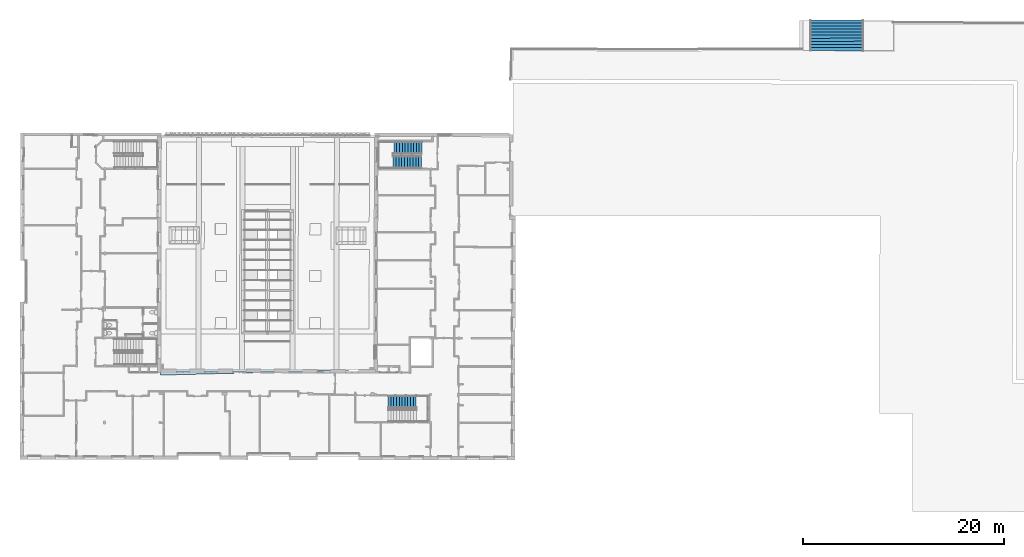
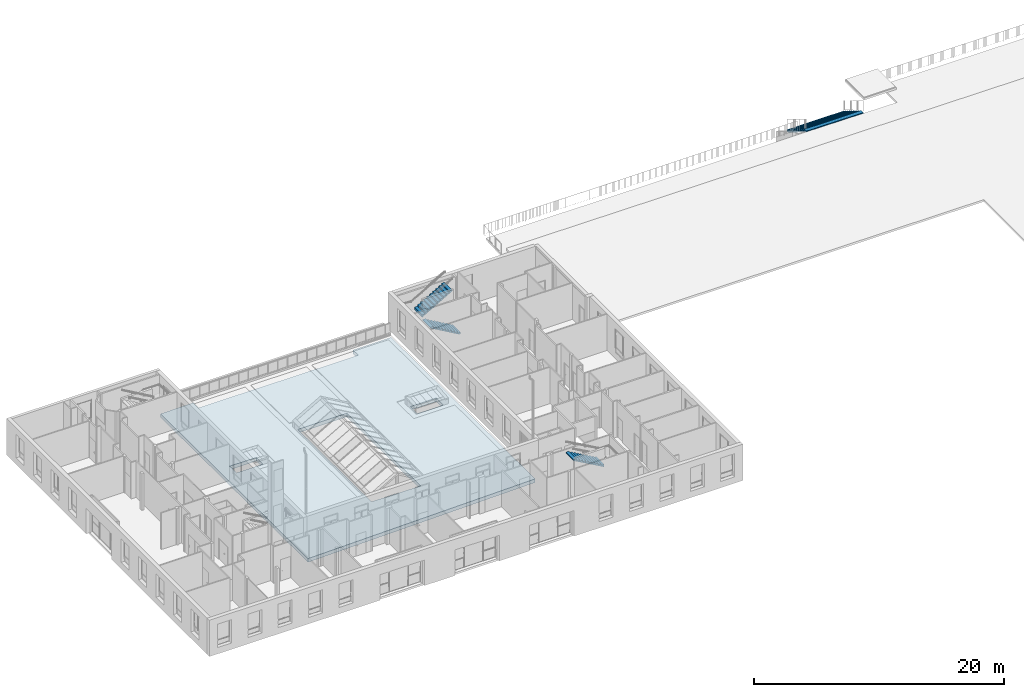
# One storey, part 97 of 101: 4 stair flights, 1 roof, 3 elements without a shape of their own.
"""IFC2X3 building model written with IfcOpenShell, lengths in metres."""

from ifc_helpers import new_model, entity, si_unit, converted_unit, derived_unit, direction, frame, origin, place, context, subcontext, project, spatial, faceted_brep, material, layer, layer_set, type_object, element, aggregate, save


model = new_model("IFC2X3")

# Units and contexts
model_context = context("Model", 3, precision=1e-05, world=origin(), true_north=direction((6.123233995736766e-17, 1.0)))
body_context = subcontext(model_context, "Body", "Model", "MODEL_VIEW")
ifc_project = project(units=[si_unit("LENGTHUNIT", "METRE"), si_unit("AREAUNIT", "SQUARE_METRE"), converted_unit("PLANEANGLEUNIT", "DEGREE", entity("IfcPlaneAngleMeasure", 0.017453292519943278), si_unit("PLANEANGLEUNIT", "RADIAN"), dimensions=[0, 0, 0, 0, 0, 0, 0]), derived_unit("THERMALTRANSMITTANCEUNIT", [(si_unit("MASSUNIT", "GRAM", prefix="KILO"), 1), (si_unit("THERMODYNAMICTEMPERATUREUNIT", "KELVIN"), -1), (si_unit("TIMEUNIT", "SECOND"), -3)])], contexts=[model_context])

# Site, building, storey
site_placement = place(None, frame((1253.6752467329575, 2072.143113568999, 91.49999999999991), z_axis=(0.0, 0.0, 1.0), x_axis=(0.7237211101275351, 0.6900925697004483, 0.0)))
site = spatial("IfcSite", under=ifc_project, at=site_placement, Name="Surface", CompositionType="ELEMENT")
building_placement = place(site_placement, origin())
building = spatial("IfcBuilding", under=site, at=building_placement, CompositionType="ELEMENT")
storey_placement = place(building_placement, origin())
storey = spatial("IfcBuildingStorey", under=building, at=storey_placement, Name="0- Rdc", CompositionType="ELEMENT", Elevation=-5.764692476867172e-13)

# Stair, stair flights
type_product_1 = type_object("IfcTypeProduct", Name="Escalier coulé sur place:Monobloc")
stair_1_placement = place(storey_placement, origin())
stair_1 = element("IfcStair", 1, at=stair_1_placement, inside=storey, type_object=type_product_1, Name="Escalier coulé sur place:Escalier", ObjectType="Escalier coulé sur place:Monobloc", ShapeType="HALF_TURN_STAIR")
ifc_material_1 = material(Name="<Unnamed>")
stair_flight_type_1 = type_object("IfcStairFlightType", Name="Volée monobloc:Nez de marche 5 mm", PredefinedType="STRAIGHT")
stair_flight_1_placement = place(stair_1_placement, frame((191.56231951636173, -1.3462725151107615, 0.0)))
stair_flight_1 = element("IfcStairFlight", 2, at=stair_flight_1_placement, type_object=stair_flight_type_1, material=ifc_material_1, Name="Escalier coulé sur place:Escalier:3228538 Run 1", ObjectType="Volée monobloc:Nez de marche 5 mm", NumberOfRiser=11, NumberOfTreads=10, RiserHeight=0.5294082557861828, TreadLength=0.9186351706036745, context=body_context, shape_type="Brep", body=[
    faceted_brep([(1.0661334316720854, 2.6414120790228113, 1.9363636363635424), (0.8637297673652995, 2.8348875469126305, 1.9363636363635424), (0.0, 1.9312997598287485, 1.9363636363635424), (0.20240366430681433, 1.737824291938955, 1.9363636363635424), (1.0661334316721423, 2.6414120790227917, 1.844029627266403), (0.8637297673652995, 2.8348875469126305, 1.6826659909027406), (0.8637297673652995, 2.8348875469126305, 1.7749999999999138), (0.0, 1.9312997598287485, 1.6826659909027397), (0.0, 1.9312997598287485, 1.7749999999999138), (0.20240366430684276, 1.7378242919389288, 1.8440296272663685), (1.268537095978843, 2.447936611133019, 2.097727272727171), (1.066133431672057, 2.641412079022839, 2.097727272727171), (0.20240366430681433, 1.7378242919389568, 2.097727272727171), (0.40480732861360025, 1.5443488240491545, 2.097727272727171), (1.2685370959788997, 2.4479366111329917, 2.0053932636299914), (0.40480732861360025, 1.544348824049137, 2.005393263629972), (1.4709407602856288, 2.2544611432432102, 2.2590909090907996), (1.268537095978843, 2.44793661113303, 2.2590909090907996), (0.40480732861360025, 1.5443488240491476, 2.2590909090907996), (0.6072109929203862, 1.3508733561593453, 2.2590909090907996), (1.4709407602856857, 2.2544611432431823, 2.166756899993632), (0.6072109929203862, 1.350873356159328, 2.166756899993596), (1.6733444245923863, 2.0609856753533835, 2.4204545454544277), (1.4709407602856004, 2.254461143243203, 2.4204545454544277), (0.6072109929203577, 1.3508733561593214, 2.4204545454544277), (0.8096146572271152, 1.1573978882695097, 2.4204545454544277), (1.6733444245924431, 2.060985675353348, 2.3281205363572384), (0.8096146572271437, 1.1573978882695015, 2.328120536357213), (1.8757480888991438, 1.8675102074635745, 2.581818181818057), (1.6733444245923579, 2.060985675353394, 2.581818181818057), (0.8096146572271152, 1.1573978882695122, 2.581818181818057), (1.0120183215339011, 0.9639224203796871, 2.581818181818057), (1.875748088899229, 1.8675102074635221, 2.4894841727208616), (1.0120183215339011, 0.9639224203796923, 2.4894841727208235), (2.078151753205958, 1.6740347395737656, 2.743181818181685), (1.8757480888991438, 1.867510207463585, 2.743181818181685), (1.0120183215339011, 0.9639224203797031, 2.743181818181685), (1.214421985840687, 0.7704469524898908, 2.743181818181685), (2.0781517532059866, 1.6740347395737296, 2.6508478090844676), (1.214421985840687, 0.7704469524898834, 2.650847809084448), (2.280555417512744, 1.4805592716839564, 2.9045454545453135), (2.078151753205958, 1.6740347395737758, 2.9045454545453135), (1.214421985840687, 0.770446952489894, 2.9045454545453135), (1.4168256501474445, 0.5769714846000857, 2.9045454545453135), (2.2805554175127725, 1.480559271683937, 2.812211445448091), (1.416825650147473, 0.5769714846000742, 2.8122114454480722), (2.4829590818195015, 1.2870838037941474, 3.0659090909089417), (2.280555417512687, 1.4805592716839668, 3.0659090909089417), (1.4168256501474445, 0.576971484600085, 3.0659090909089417), (1.619229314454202, 0.38349601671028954, 3.0659090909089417), (2.48295908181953, 1.2870838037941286, 2.973575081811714), (1.6192293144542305, 0.3834960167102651, 2.9735750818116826), (2.685362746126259, 1.0936083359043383, 3.2272727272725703), (2.4829590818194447, 1.2870838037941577, 3.2272727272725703), (1.619229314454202, 0.3834960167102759, 3.2272727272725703), (1.82163297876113, 0.19002054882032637, 3.2272727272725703), (2.685362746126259, 1.093608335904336, 3.134938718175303), (1.821632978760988, 0.19002054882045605, 3.134938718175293), (2.8841520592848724, 0.903587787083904, 3.3886363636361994), (2.6853627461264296, 1.0936083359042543, 3.3886363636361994), (1.8216329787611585, 0.190020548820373, 3.3886363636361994), (2.0204222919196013, 0.0, 3.3886363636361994), (2.884152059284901, 0.9035877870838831, 3.293420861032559), (2.0204222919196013, 0.0, 3.293420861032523)], [[[0, 1, 2, 3]], [[1, 0, 4, 5, 6]], [[2, 1, 6, 5, 7, 8]], [[3, 2, 8, 7, 9]], [[10, 11, 12, 13]], [[11, 10, 14, 4, 0]], [[12, 11, 0, 3]], [[13, 12, 3, 9, 15]], [[16, 17, 18, 19]], [[17, 16, 20, 14, 10]], [[18, 17, 10, 13]], [[19, 18, 13, 15, 21]], [[22, 23, 24, 25]], [[23, 22, 26, 20, 16]], [[24, 23, 16, 19]], [[25, 24, 19, 21, 27]], [[28, 29, 30, 31]], [[29, 28, 32, 26, 22]], [[30, 29, 22, 25]], [[31, 30, 25, 27, 33]], [[34, 35, 36, 37]], [[35, 34, 38, 32, 28]], [[36, 35, 28, 31]], [[37, 36, 31, 33, 39]], [[40, 41, 42, 43]], [[41, 40, 44, 38, 34]], [[42, 41, 34, 37]], [[43, 42, 37, 39, 45]], [[46, 47, 48, 49]], [[47, 46, 50, 44, 40]], [[48, 47, 40, 43]], [[49, 48, 43, 45, 51]], [[52, 53, 54, 55]], [[53, 52, 56, 50, 46]], [[54, 53, 46, 49]], [[55, 54, 49, 51, 57]], [[58, 59, 60, 61]], [[59, 58, 62, 56, 52]], [[60, 59, 52, 55]], [[61, 60, 55, 57, 63]], [[58, 61, 63, 62]], [[5, 4, 14, 20, 26, 32, 38, 44, 50, 56, 62, 63, 57, 51, 45, 39, 33, 27, 21, 15, 9, 7]]]),
])
stair_flight_2_placement = place(stair_1_placement, frame((190.53775028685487, -2.3347441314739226, 0.0)))
stair_flight_2 = element("IfcStairFlight", 3, at=stair_flight_2_placement, type_object=stair_flight_type_1, material=ifc_material_1, Name="Escalier coulé sur place:Escalier:3228538 Run 2", ObjectType="Volée monobloc:Nez de marche 5 mm", NumberOfRiser=11, NumberOfTreads=10, RiserHeight=0.5294082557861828, TreadLength=0.9186351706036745, context=body_context, shape_type="Brep", body=[
    faceted_brep([(1.8216329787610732, 0.19347546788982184, 0.16136363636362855), (2.024036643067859, 0.0, 0.16136363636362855), (2.88776641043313, 0.9035877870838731, 0.16136363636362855), (2.685362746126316, 1.0970632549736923, 0.16136363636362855), (1.8216329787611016, 0.19347546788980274, 0.06902962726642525), (1.9082190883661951, 0.1107087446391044, 0.0), (2.024036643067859, 0.0, 0.0), (2.88776641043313, 0.9035877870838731, 0.0), (2.7719488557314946, 1.0142965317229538, 0.0), (2.685362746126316, 1.0970632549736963, 0.06902962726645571), (1.6192293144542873, 0.3869509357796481, 0.32272727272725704), (1.8216329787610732, 0.19347546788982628, 0.32272727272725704), (2.685362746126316, 1.0970632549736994, 0.32272727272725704), (2.48295908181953, 1.290538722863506, 0.32272727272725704), (1.6192293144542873, 0.3869509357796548, 0.2303932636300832), (2.48295908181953, 1.2905387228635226, 0.23039326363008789), (1.4168256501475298, 0.5804264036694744, 0.48409090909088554), (1.6192293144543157, 0.38695093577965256, 0.48409090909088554), (2.4829590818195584, 1.2905387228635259, 0.48409090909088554), (2.2805554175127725, 1.4840141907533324, 0.48409090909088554), (1.4168256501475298, 0.5804264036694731, 0.39175689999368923), (2.2805554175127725, 1.4840141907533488, 0.39175689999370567), (1.214421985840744, 0.7739018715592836, 0.645454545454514), (1.4168256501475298, 0.5804264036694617, 0.645454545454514), (2.2805554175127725, 1.484014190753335, 0.645454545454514), (2.0781517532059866, 1.6774896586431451, 0.645454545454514), (1.214421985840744, 0.7739018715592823, 0.5531205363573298), (2.0781517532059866, 1.6774896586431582, 0.5531205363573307), (1.0120183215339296, 0.9673773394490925, 0.8068181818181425), (1.214421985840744, 0.7739018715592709, 0.8068181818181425), (2.0781517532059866, 1.677489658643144, 0.8068181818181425), (1.8757480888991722, 1.8709651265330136, 0.8068181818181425), (1.0120183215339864, 0.9673773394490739, 0.7144841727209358), (1.8757480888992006, 1.8709651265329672, 0.714484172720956), (0.8096146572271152, 1.1608528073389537, 0.9681818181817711), (1.0120183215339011, 0.9673773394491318, 0.9681818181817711), (1.8757480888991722, 1.8709651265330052, 0.9681818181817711), (1.6733444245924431, 2.064440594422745, 0.9681818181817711), (0.8096146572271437, 1.1608528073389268, 0.8758478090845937), (1.6733444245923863, 2.064440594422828, 0.8758478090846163), (0.6072109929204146, 1.354328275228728, 1.1295454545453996), (0.8096146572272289, 1.1608528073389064, 1.1295454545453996), (1.6733444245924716, 2.0644405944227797, 1.1295454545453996), (1.4709407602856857, 2.2579160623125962, 1.1295454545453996), (0.6072109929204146, 1.3543282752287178, 1.0372114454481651), (1.4709407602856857, 2.257916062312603, 1.0372114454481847), (0.40480732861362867, 1.5478037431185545, 1.2909090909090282), (0.6072109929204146, 1.354328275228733, 1.2909090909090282), (1.4709407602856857, 2.257916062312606, 1.2909090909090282), (1.2685370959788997, 2.451391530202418, 1.2909090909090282), (0.4048073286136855, 1.5478037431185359, 1.1985750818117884), (1.2685370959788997, 2.451391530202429, 1.1985750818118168), (0.20240366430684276, 1.741279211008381, 1.4522727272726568), (0.40480732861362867, 1.5478037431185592, 1.4522727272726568), (1.2685370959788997, 2.4513915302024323, 1.4522727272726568), (1.0661334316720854, 2.644866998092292, 1.4522727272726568), (0.20240366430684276, 1.7412792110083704, 1.3599387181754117), (1.0661334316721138, 2.6448669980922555, 1.3599387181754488), (0.0, 1.9347546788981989, 1.6136363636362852), (0.0036143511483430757, 1.9312997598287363, 1.6136363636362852), (0.2024036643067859, 1.7412792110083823, 1.6136363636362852), (1.0661334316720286, 2.6448669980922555, 1.6136363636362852), (0.8637297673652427, 2.8383424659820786, 1.6136363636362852), (0.0, 1.9347546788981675, 1.5213023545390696), (0.0036143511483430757, 1.9312997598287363, 1.5184208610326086), (0.8637297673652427, 2.8383424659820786, 1.5213023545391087)], [[[0, 1, 2, 3]], [[1, 0, 4, 5, 6]], [[2, 1, 6, 7]], [[3, 2, 7, 8, 9]], [[10, 11, 12, 13]], [[11, 10, 14, 4, 0]], [[0, 3, 12, 11]], [[13, 12, 3, 9, 15]], [[16, 17, 18, 19]], [[17, 16, 20, 14, 10]], [[10, 13, 18, 17]], [[19, 18, 13, 15, 21]], [[22, 23, 24, 25]], [[23, 22, 26, 20, 16]], [[16, 19, 24, 23]], [[25, 24, 19, 21, 27]], [[28, 29, 30, 31]], [[29, 28, 32, 26, 22]], [[22, 25, 30, 29]], [[31, 30, 25, 27, 33]], [[34, 35, 36, 37]], [[35, 34, 38, 32, 28]], [[28, 31, 36, 35]], [[37, 36, 31, 33, 39]], [[40, 41, 42, 43]], [[41, 40, 44, 38, 34]], [[34, 37, 42, 41]], [[43, 42, 37, 39, 45]], [[46, 47, 48, 49]], [[47, 46, 50, 44, 40]], [[40, 43, 48, 47]], [[49, 48, 43, 45, 51]], [[52, 53, 54, 55]], [[53, 52, 56, 50, 46]], [[46, 49, 54, 53]], [[55, 54, 49, 51, 57]], [[58, 59, 60, 61, 62]], [[59, 58, 63, 64]], [[52, 55, 61, 60]], [[62, 61, 55, 57, 65]], [[58, 62, 65, 63]], [[7, 6, 5, 8]], [[60, 59, 64, 56, 52]], [[8, 5, 4, 14, 20, 26, 32, 38, 44, 50, 56, 64, 63, 65, 57, 51, 45, 39, 33, 27, 21, 15, 9]]]),
])
aggregate(stair_1, [stair_flight_1, stair_flight_2])

# Stair, stair flight
stair_2_placement = place(storey_placement, origin())
stair_2 = element("IfcStair", 4, at=stair_2_placement, inside=storey, type_object=type_product_1, Name="Escalier coulé sur place:Escalier", ObjectType="Escalier coulé sur place:Monobloc", ShapeType="HALF_TURN_STAIR")
stair_flight_3_placement = place(stair_2_placement, frame((173.73828853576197, -19.204087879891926, 0.0)))
stair_flight_3 = element("IfcStairFlight", 5, at=stair_flight_3_placement, type_object=stair_flight_type_1, material=ifc_material_1, Name="Escalier coulé sur place:Escalier:3231157 Run 2", ObjectType="Volée monobloc:Nez de marche 5 mm", NumberOfRiser=11, NumberOfTreads=10, RiserHeight=0.5144953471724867, TreadLength=0.9186351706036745, context=body_context, shape_type="Brep", body=[
    faceted_brep([(1.8180186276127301, 0.19347546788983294, 1.8818181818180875), (2.020422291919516, 0.0, 1.8818181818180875), (2.884152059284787, 0.9035877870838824, 1.8818181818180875), (2.6817483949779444, 1.0970632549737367, 1.8818181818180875), (1.8180186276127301, 0.19347546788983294, 1.7901257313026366), (2.020422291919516, 0.0, 1.6333075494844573), (2.020422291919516, 0.0, 1.7249999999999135), (2.884152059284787, 0.9035877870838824, 1.6333075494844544), (2.884152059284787, 0.9035877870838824, 1.7249999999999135), (2.681748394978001, 1.0970632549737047, 1.790125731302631), (1.6156149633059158, 0.3869509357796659, 2.0386363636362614), (1.8180186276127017, 0.1934754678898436, 2.0386363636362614), (2.6817483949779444, 1.097063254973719, 2.0386363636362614), (2.47934473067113, 1.2905387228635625, 2.0386363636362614), (1.6156149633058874, 0.3869509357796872, 1.9469439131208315), (2.4793447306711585, 1.2905387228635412, 1.9469439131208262), (1.413211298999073, 0.5804264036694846, 2.1954545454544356), (1.6156149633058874, 0.38695093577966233, 2.1954545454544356), (2.47934473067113, 1.290538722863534, 2.1954545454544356), (2.2769410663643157, 1.4840141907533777, 2.1954545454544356), (1.413211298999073, 0.5804264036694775, 2.1037620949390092), (2.276941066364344, 1.48401419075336, 2.103762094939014), (1.2108076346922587, 0.7739018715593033, 2.3522727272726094), (1.4132112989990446, 0.5804264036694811, 2.3522727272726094), (2.2769410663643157, 1.4840141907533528, 2.3522727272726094), (2.07453740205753, 1.677489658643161, 2.3522727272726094), (1.2108076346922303, 0.7739018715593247, 2.2605802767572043), (2.07453740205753, 1.6774896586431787, 2.260580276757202), (1.0084039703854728, 0.9673773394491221, 2.5090909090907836), (1.2108076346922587, 0.7739018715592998, 2.5090909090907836), (2.07453740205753, 1.6774896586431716, 2.5090909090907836), (1.8721337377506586, 1.8709651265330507, 2.5090909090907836), (1.0084039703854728, 0.967377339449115, 2.4173984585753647), (1.8721337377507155, 1.8709651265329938, 2.4173984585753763), (0.8060003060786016, 1.1608528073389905, 2.6659090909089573), (1.0084039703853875, 0.9673773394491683, 2.6659090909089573), (1.8721337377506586, 1.87096512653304, 2.6659090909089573), (1.6697300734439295, 2.0644405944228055, 2.6659090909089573), (0.8060003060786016, 1.1608528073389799, 2.5742166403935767), (1.6697300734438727, 2.064440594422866, 2.5742166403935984), (0.6035966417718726, 1.354328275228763, 2.822727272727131), (0.8060003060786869, 1.1608528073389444, 2.822727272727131), (1.6697300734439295, 2.064440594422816, 2.822727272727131), (1.467326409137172, 2.2579160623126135, 2.822727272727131), (0.6035966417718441, 1.354328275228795, 2.731034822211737), (1.4673264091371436, 2.2579160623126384, 2.7310348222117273), (0.40119297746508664, 1.5478037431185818, 2.9795454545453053), (0.6035966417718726, 1.3543282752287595, 2.9795454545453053), (1.4673264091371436, 2.2579160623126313, 2.9795454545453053), (1.2649227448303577, 2.4513915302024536, 2.9795454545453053), (0.4011929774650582, 1.5478037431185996, 2.8878530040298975), (1.2649227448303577, 2.451391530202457, 2.887853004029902), (0.19878931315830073, 1.7412792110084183, 3.136363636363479), (0.40119297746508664, 1.547803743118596, 3.136363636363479), (1.2649227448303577, 2.451391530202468, 3.136363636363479), (1.0625190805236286, 2.6448669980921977, 3.136363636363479), (0.19878931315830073, 1.7412792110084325, 3.0446711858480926), (1.0625190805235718, 2.64486699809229, 3.0446711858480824), (0.0, 1.9312997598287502, 3.2931818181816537), (0.19878931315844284, 1.7412792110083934, 3.2931818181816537), (1.062519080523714, 2.6448669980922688, 3.2931818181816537), (0.8637297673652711, 2.8348875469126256, 3.2931818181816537), (0.0, 1.9312997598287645, 3.1986890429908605), (0.8637297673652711, 2.8348875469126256, 3.1986890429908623)], [[[0, 1, 2, 3]], [[1, 0, 4, 5, 6]], [[2, 1, 6, 5, 7, 8]], [[3, 2, 8, 7, 9]], [[10, 11, 12, 13]], [[11, 10, 14, 4, 0]], [[12, 11, 0, 3]], [[13, 12, 3, 9, 15]], [[16, 17, 18, 19]], [[17, 16, 20, 14, 10]], [[18, 17, 10, 13]], [[19, 18, 13, 15, 21]], [[22, 23, 24, 25]], [[23, 22, 26, 20, 16]], [[24, 23, 16, 19]], [[25, 24, 19, 21, 27]], [[28, 29, 30, 31]], [[29, 28, 32, 26, 22]], [[30, 29, 22, 25]], [[31, 30, 25, 27, 33]], [[34, 35, 36, 37]], [[35, 34, 38, 32, 28]], [[36, 35, 28, 31]], [[37, 36, 31, 33, 39]], [[40, 41, 42, 43]], [[41, 40, 44, 38, 34]], [[42, 41, 34, 37]], [[43, 42, 37, 39, 45]], [[46, 47, 48, 49]], [[47, 46, 50, 44, 40]], [[48, 47, 40, 43]], [[49, 48, 43, 45, 51]], [[52, 53, 54, 55]], [[53, 52, 56, 50, 46]], [[54, 53, 46, 49]], [[55, 54, 49, 51, 57]], [[58, 59, 60, 61]], [[59, 58, 62, 56, 52]], [[60, 59, 52, 55]], [[61, 60, 55, 57, 63]], [[58, 61, 63, 62]], [[5, 4, 14, 20, 26, 32, 38, 44, 50, 56, 62, 63, 57, 51, 45, 39, 33, 27, 21, 15, 9, 7]]]),
])
aggregate(stair_2, [stair_flight_3])

type_product_2 = type_object("IfcTypeProduct", Name="Escalier coulé sur place:Monobloc")
stair_3_placement = place(storey_placement, origin())
stair_3 = element("IfcStair", 6, at=stair_3_placement, inside=storey, type_object=type_product_2, Name="Escalier coulé sur place:Escalier", ObjectType="Escalier coulé sur place:Monobloc", ShapeType="STRAIGHT_RUN_STAIR")
stair_flight_type_2 = type_object("IfcStairFlightType", Name="Volée monobloc:Nez de marche 5 mm", PredefinedType="NOTDEFINED")
stair_flight_4_placement = place(stair_3_placement, frame((228.60753672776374, -24.18504687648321, 0.0)))
stair_flight_4 = element("IfcStairFlight", 7, at=stair_flight_4_placement, type_object=stair_flight_type_2, material=ifc_material_1, Name="Escalier coulé sur place:Escalier:3631488 Run 1", ObjectType="Volée monobloc:Nez de marche 5 mm", NumberOfRiser=11, NumberOfTreads=10, RiserHeight=0.6055079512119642, TreadLength=0.8559132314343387, context=body_context, shape_type="Brep", body=[
    faceted_brep([(1.8847447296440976, 5.636150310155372, -2.5404411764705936), (5.687078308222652, 2.0162464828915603, -2.5404411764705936), (5.892865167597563, 2.234544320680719, -2.5404411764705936), (2.092418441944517, 5.852651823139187, -2.5404411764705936), (5.687078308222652, 2.0162464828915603, -2.3558823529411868), (5.4812914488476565, 1.7979486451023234, -2.3558823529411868), (5.4812914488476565, 1.7979486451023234, -2.1713235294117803), (5.275504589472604, 1.5796508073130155, -2.1713235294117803), (5.275504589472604, 1.5796508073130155, -1.9867647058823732), (5.069717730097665, 1.3613529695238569, -1.9867647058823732), (5.069717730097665, 1.3613529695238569, -1.8022058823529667), (4.863930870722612, 1.143055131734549, -1.8022058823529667), (4.863930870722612, 1.1430551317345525, -1.61764705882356), (4.658144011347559, 0.9247572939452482, -1.61764705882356), (4.658144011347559, 0.9247572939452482, -1.4330882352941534), (4.45235715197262, 0.706459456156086, -1.4330882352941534), (4.45235715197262, 0.706459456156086, -1.2485294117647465), (4.246570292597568, 0.4881616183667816, -1.2485294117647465), (4.246570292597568, 0.4881616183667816, -1.0639705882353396), (4.044213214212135, 0.27350207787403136, -1.0639705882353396), (4.040783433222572, 0.2698637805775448, -1.0639705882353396), (4.040783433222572, 0.2698637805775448, -0.8794117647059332), (3.787889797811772, 0.0015952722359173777, -0.8794117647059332), (3.787889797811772, 0.0015952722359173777, -0.9725202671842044), (3.830039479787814, 0.046307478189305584, -1.002866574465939), (3.872188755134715, 0.09101925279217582, -1.0332137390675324), (3.9143377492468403, 0.13573072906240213, -1.0635617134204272), (3.9564865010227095, 0.18044194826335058, -1.093910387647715), (3.9986350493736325, 0.2251529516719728, -1.1242596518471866), (4.040783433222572, 0.2698637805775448, -1.1546093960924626), (4.0424983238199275, 0.27168292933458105, -1.155844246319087), (4.044213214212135, 0.27350207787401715, -1.1570790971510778), (4.044213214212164, 0.2735020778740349, -1.160973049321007), (4.246570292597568, 0.48816161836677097, -1.342455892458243), (4.45235715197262, 0.7064594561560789, -1.5270147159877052), (4.658144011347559, 0.9247572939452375, -1.7115735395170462), (4.863930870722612, 1.1430551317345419, -1.8961323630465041), (5.069717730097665, 1.3613529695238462, -2.0806911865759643), (5.275504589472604, 1.5796508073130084, -2.2652500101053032), (5.4812914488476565, 1.7979486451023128, -2.4498088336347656), (5.687078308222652, 2.0162464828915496, -2.634367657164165), (5.788135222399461, 2.123447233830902, -2.725), (5.892865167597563, 2.234544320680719, -2.725), (2.092418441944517, 5.852651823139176, -2.725), (1.986728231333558, 5.742468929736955, -2.725000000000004), (1.8847447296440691, 5.636150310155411, -2.6343676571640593), (1.6770710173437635, 5.4196487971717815, -2.4498088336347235), (1.4693973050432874, 5.203147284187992, -2.265250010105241), (1.2617235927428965, 4.986645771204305, -2.080691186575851), (1.0540498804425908, 4.770144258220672, -1.8961323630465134), (0.8463761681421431, 4.553642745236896, -1.711573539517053), (0.6387024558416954, 4.337141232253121, -1.5270147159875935), (0.4310287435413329, 4.120639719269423, -1.3424558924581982), (0.22681625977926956, 3.9077465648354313, -1.1609730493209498), (0.22681625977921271, 3.9077465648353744, -1.1570790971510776), (0.22508564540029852, 3.9059423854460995, -1.155660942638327), (0.22335503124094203, 3.9041382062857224, -1.1542427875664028), (0.17900308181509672, 3.8579009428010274, -1.117898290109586), (0.1346512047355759, 3.8116637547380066, -1.0815536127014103), (0.09029932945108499, 3.7654265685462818, -1.0452089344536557), (0.04594738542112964, 3.7191893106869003, -1.0088644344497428), (0.0015952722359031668, 3.672951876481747, -0.9725202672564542), (0.0015952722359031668, 3.6729518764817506, -0.8794117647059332), (0.22335503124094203, 3.904138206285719, -0.8794117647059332), (0.2233550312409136, 3.904138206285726, -1.0639705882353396), (0.22681625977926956, 3.907746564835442, -1.0639705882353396), (0.4310287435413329, 4.120639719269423, -1.0639705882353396), (0.4310287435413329, 4.120639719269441, -1.2485294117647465), (0.6387024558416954, 4.337141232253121, -1.2485294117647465), (0.6387024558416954, 4.337141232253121, -1.4330882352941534), (0.8463761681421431, 4.553642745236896, -1.4330882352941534), (0.8463761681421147, 4.553642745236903, -1.61764705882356), (1.0540498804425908, 4.770144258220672, -1.61764705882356), (1.0540498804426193, 4.770144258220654, -1.8022058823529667), (1.2617235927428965, 4.9866457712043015, -1.8022058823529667), (1.2617235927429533, 4.9866457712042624, -1.9867647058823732), (1.4693973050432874, 5.2031472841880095, -1.9867647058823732), (1.4693973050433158, 5.203147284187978, -2.1713235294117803), (1.6770710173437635, 5.4196487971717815, -2.1713235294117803), (1.6770710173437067, 5.419648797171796, -2.3558823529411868), (1.8847447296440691, 5.636150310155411, -2.3558823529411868), (0.4222946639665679, 3.2650233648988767, -0.9725202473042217), (0.8429940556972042, 2.8570948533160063, -0.9725202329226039), (1.263693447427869, 2.449166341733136, -0.9725202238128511), (1.6843928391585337, 2.0412378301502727, -0.972520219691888), (2.1050922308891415, 1.633309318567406, -0.9725202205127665), (2.5257916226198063, 1.225380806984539, -0.9725202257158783), (2.946491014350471, 0.8174522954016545, -0.9725202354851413), (3.3671904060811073, 0.40952378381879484, -0.9725202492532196), (3.6200579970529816, 0.6773070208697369, -1.1570790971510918), (3.1959027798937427, 1.0811119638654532, -1.1570790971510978), (2.7717475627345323, 1.4849169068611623, -1.1570790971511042), (2.3475923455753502, 1.888721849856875, -1.1570790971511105), (1.9234371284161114, 2.292526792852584, -1.157079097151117), (1.499281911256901, 2.6963317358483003, -1.1570790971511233), (1.0751266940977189, 3.1001366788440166, -1.157079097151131), (0.65097147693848, 3.503941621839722, -1.157079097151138), (2.8593584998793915, 1.1528737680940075, -1.0648180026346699), (1.1701408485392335, 2.7758353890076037, -1.0648080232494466)], [[[0, 1, 2, 3]], [[2, 1, 4, 5, 6, 7, 8, 9, 10, 11, 12, 13, 14, 15, 16, 17, 18, 19, 20, 21, 22, 23, 24, 25, 26, 27, 28, 29, 30, 31, 32, 33, 34, 35, 36, 37, 38, 39, 40, 41, 42]], [[3, 2, 42, 43]], [[0, 3, 43, 44, 45, 46, 47, 48, 49, 50, 51, 52, 53, 54, 55, 56, 57, 58, 59, 60, 61, 62, 63, 64, 65, 66, 67, 68, 69, 70, 71, 72, 73, 74, 75, 76, 77, 78, 79, 80]], [[79, 5, 4, 80]], [[80, 4, 1, 0]], [[77, 7, 6, 78]], [[78, 6, 5, 79]], [[75, 9, 8, 76]], [[76, 8, 7, 77]], [[73, 11, 10, 74]], [[74, 10, 9, 75]], [[71, 13, 12, 72]], [[72, 12, 11, 73]], [[69, 15, 14, 70]], [[70, 14, 13, 71]], [[67, 17, 16, 68]], [[68, 16, 15, 69]], [[20, 19, 18, 66, 65, 64]], [[66, 18, 17, 67]], [[62, 22, 21, 63]], [[63, 21, 20, 64]], [[62, 61, 81, 82, 83, 84, 85, 86, 87, 88, 23, 22]], [[44, 43, 42, 41]], [[48, 47, 46, 45, 44, 41, 40, 39, 38, 37, 36, 35, 34, 33, 32, 53, 52, 51, 50, 49]], [[32, 31, 89, 90, 91, 92, 93, 94, 95, 96, 54, 53]], [[27, 97, 89]], [[90, 89, 97, 93, 92, 91]], [[89, 31, 30]], [[82, 81, 98]], [[29, 28, 89]], [[29, 89, 30]], [[98, 96, 95, 94, 93]], [[55, 54, 96]], [[85, 97, 86]], [[98, 57, 96]], [[96, 56, 55]], [[56, 96, 57]], [[97, 98, 93]], [[89, 28, 27]], [[25, 24, 88]], [[26, 25, 97]], [[97, 25, 88]], [[87, 97, 88]], [[87, 86, 97]], [[24, 23, 88]], [[97, 85, 84]], [[81, 61, 60]], [[81, 60, 59]], [[59, 58, 98]], [[83, 82, 98]], [[98, 81, 59]], [[58, 57, 98]], [[83, 98, 84]], [[97, 84, 98]], [[97, 27, 26]]]),
])
aggregate(stair_3, [stair_flight_4])

# Roof
ifc_material_2 = material(Name="OMD tranche")
ifc_layer = layer(ifc_material_2, 0.35)
ifc_layer_set = layer_set([ifc_layer], Name="Toit de base:toit terrasse 35")
type_product_3 = type_object("IfcTypeProduct", Name="Toit de base:toit terrasse 35")
roof_placement = place(storey_placement, frame((159.6150485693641, -13.581652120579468, -0.958328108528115)))
element("IfcRoof", 8, at=roof_placement, inside=storey, type_object=type_product_3, material=ifc_layer_set, Name="Toit de base:toit terrasse 35", ObjectType="Toit de base:toit terrasse 35", ShapeType="NOTDEFINED", context=body_context, shape_type="Brep", body=[
    faceted_brep([(31.734202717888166, 16.67710646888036, 0.0), (15.785199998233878, 0.0, 0.2054080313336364), (2.425444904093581, 12.088315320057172, 0.20983509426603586), (11.527515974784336, 21.74386031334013, 0.09172162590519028), (11.792220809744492, 21.490831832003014, 0.09172085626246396), (12.538851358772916, 22.26977341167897, 0.08211637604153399), (12.268009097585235, 22.529380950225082, 0.08211258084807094), (18.02321187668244, 28.634543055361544, 0.00742991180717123), (28.600134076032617, 18.496358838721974, 0.007578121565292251), (29.1892400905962, 19.110958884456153, 0.0), (23.7500767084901, 9.993534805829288, 0.09211654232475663), (24.52910721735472, 10.80851476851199, 0.08208089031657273), (22.806324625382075, 12.455303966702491, 0.08208589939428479), (22.026175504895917, 11.64139327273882, 0.0921215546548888), (9.084958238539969, 11.672744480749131, 0.1715375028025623), (12.315226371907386, 8.51589443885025, 0.17197245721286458), (20.503898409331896, 17.077769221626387, 0.0665141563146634), (17.238808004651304, 20.1988337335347, 0.06652364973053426), (15.785199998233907, 0.0, 0.5554218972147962), (31.734202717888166, 16.67710646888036, 0.3500138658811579), (29.1892400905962, 19.110958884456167, 0.3500138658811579), (28.600134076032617, 18.496358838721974, 0.35759198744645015), (18.023211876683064, 28.634543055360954, 0.357443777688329), (12.268009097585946, 22.52938095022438, 0.43212644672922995), (12.538851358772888, 22.269773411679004, 0.43213024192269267), (11.792220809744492, 21.490831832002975, 0.44173472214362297), (11.527515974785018, 21.743860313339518, 0.4417354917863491), (2.4254449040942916, 12.088315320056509, 0.5598489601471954), (24.529107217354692, 10.808514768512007, 0.4320947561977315), (23.7500767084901, 9.993534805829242, 0.44213040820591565), (22.02617550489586, 11.641393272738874, 0.44213542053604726), (22.806324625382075, 12.455303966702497, 0.43209976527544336), (12.315226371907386, 8.515894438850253, 0.521986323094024), (9.084958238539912, 11.672744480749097, 0.5215513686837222), (17.23880800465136, 20.198833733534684, 0.4165375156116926), (20.503898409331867, 17.07776922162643, 0.41652802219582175), (16.32026910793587, 31.356322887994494, 0.3500138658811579), (18.564665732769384, 29.270831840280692, 0.3500138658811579), (18.564665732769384, 29.270831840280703, 0.0), (16.32026910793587, 31.35632288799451, 0.0), (0.0, 14.282932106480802, 0.21022050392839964), (0.0, 14.282932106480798, 0.5602343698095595), (17.98754235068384, 28.66873298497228, 0.007423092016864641), (17.98754235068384, 28.66873298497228, 0.35743695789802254), (10.022053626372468, 23.182915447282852, 0.09145961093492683), (10.02205362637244, 23.18291544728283, 0.44147347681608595), (10.76722909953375, 23.967907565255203, 0.08182564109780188), (10.76722909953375, 23.96790756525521, 0.43183950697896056)], [[[0, 1, 2, 3, 4, 5, 6, 7, 8, 9], [10, 11, 12, 13], [14, 15, 16, 17]], [[18, 19, 20, 21, 22, 23, 24, 25, 26, 27], [28, 29, 30, 31], [32, 33, 34, 35]], [[20, 19, 0, 9]], [[36, 37, 38, 39]], [[39, 40, 41, 36]], [[1, 0, 19, 18]], [[42, 38, 37, 43]], [[9, 8, 21, 20]], [[24, 5, 4, 25]], [[25, 4, 3, 44, 45, 26]], [[45, 44, 46, 47]], [[5, 24, 23, 47, 46, 6]], [[28, 11, 10, 29]], [[29, 10, 13, 30]], [[30, 13, 12, 31]], [[11, 28, 31, 12]], [[32, 15, 14, 33]], [[33, 14, 17, 34]], [[34, 17, 16, 35]], [[15, 32, 35, 16]], [[40, 39, 38, 42, 7, 6, 46, 44, 3, 2]], [[36, 41, 27, 26, 45, 47, 23, 22, 43, 37]], [[2, 1, 18, 27, 41, 40]], [[8, 7, 42, 43, 22, 21]]]),
])

save(model, "model.ifc")
